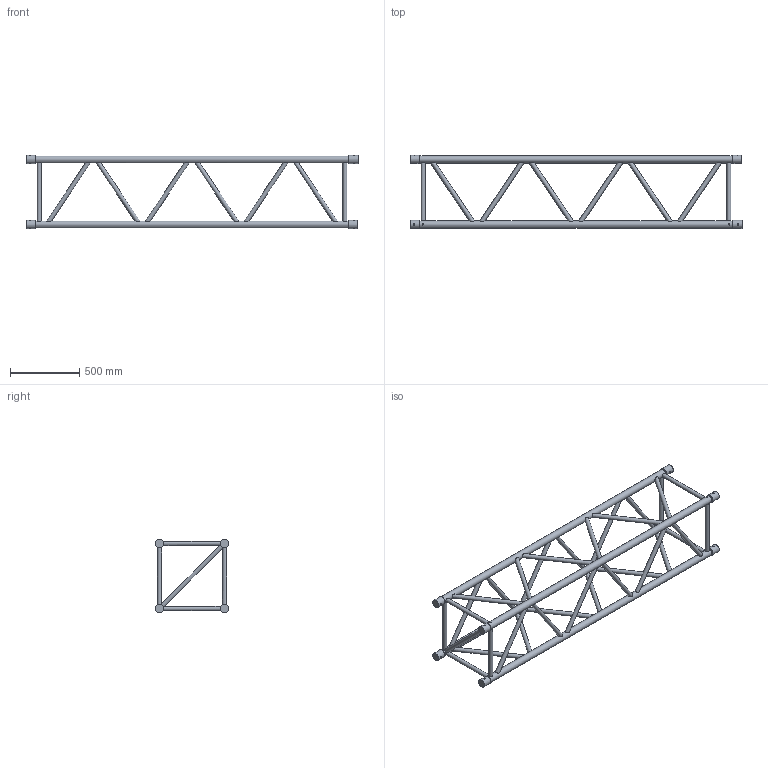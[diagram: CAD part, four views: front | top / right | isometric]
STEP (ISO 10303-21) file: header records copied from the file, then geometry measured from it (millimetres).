
FILE_DESCRIPTION(/* description */ (''),/* implementation_level */ '2;1');
FILE_NAME(/* name */ 'M:\Symbolen_NIEUW\STP\52-er truss\111110113.stp',/* time_stamp */ '2015-04-22T15:53:02+02:00',/* author */ ('Stephan'),/* organization */ (''),/* preprocessor_version */ 'ST-DEVELOPER v15.6',/* originating_system */ 'Autodesk Inventor 2015',/* authorisation */ '');
FILE_SCHEMA (('AUTOMOTIVE_DESIGN { 1 0 10303 214 3 1 1 }'));
Length unit declared in the file: millimetre
Products named in the file (1): 160024023
Bounding box: 2400 x 528.8 x 528.8 mm (x, y, z)
Volume: 17162181.2 mm3; surface area: 3149047.3 mm2
Topology: 3 solids, 6 shells, 346 faces, 930 edges, 600 vertices
Faces by surface type: plane 200, cylinder 106, cone 40
Full cylindrical faces by diameter (mm): 10 x8, 30 x34, 50 x4, 58.8 x8
Entity records: 13781 total; most frequent: CARTESIAN_POINT 5459, DIRECTION 1666, ORIENTED_EDGE 1584, AXIS2_PLACEMENT_3D 767, EDGE_CURVE 764, VERTEX_POINT 528, EDGE_LOOP 496, STYLED_ITEM 327
